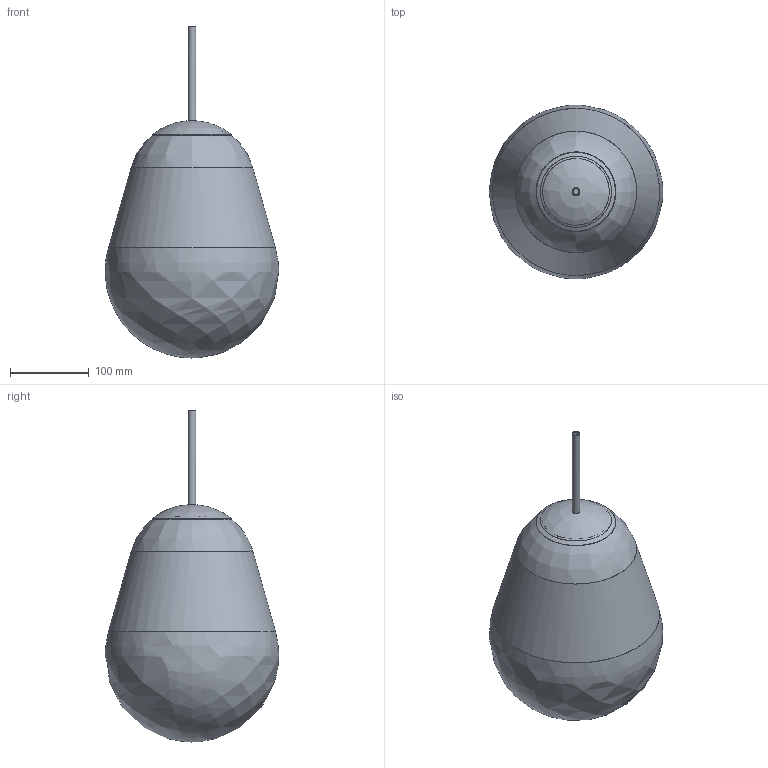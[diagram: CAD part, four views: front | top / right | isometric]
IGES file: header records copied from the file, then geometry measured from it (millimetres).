
Start section: SolidWorks IGES file using NURBS representation for surfaces
Global section: file name: Z:\Modele 3D_WWW\_CAMELEON\KLOSZE I OPRAWY WWW\Cameleon-PEAR\8534\PEAR_S_8534.IGS; native system: SolidWorks 2021; preprocessor: SolidWorks 2021; author: gabriela.tworek; date: 211223.102429; units: millimetre
Bounding box: 219.81 x 220 x 420.65 mm (x, y, z)
Surface area: 391430.6 mm2 (no closed solid volume)
Topology: 0 solids, 0 shells, 25 faces, 115 edges, 100 vertices
Faces by surface type: bspline 25
